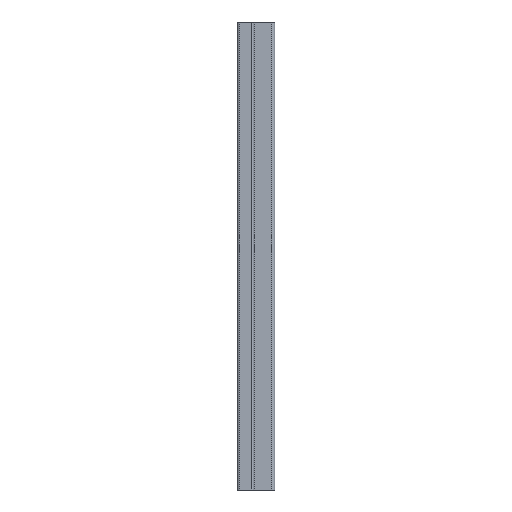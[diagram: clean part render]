
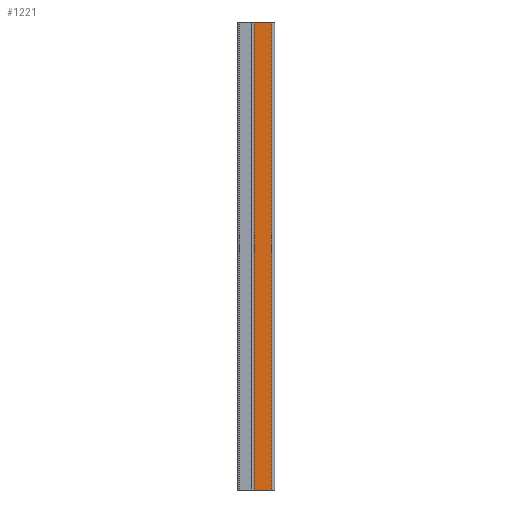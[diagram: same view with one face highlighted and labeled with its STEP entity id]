
A CAD part, left-side view. The second image highlights one B-rep face of the part: STEP entity #1221.
In plain terms, the highlighted planar face has unit normal (-1, 0, 0).
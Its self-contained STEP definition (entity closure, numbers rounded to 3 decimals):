
#14 = VERTEX_POINT ( 'NONE', #590 ) ;
#70 = LINE ( 'NONE', #155, #546 ) ;
#90 = ORIENTED_EDGE ( 'NONE', *, *, #225, .F. ) ;
#155 = CARTESIAN_POINT ( 'NONE',  ( -12.5, 27.5, 250. ) ) ;
#183 = EDGE_CURVE ( 'NONE', #191, #775, #265, .T. ) ;
#191 = VERTEX_POINT ( 'NONE', #1125 ) ;
#201 = EDGE_CURVE ( 'NONE', #14, #191, #351, .T. ) ;
#225 = EDGE_CURVE ( 'NONE', #866, #775, #70, .T. ) ;
#227 = AXIS2_PLACEMENT_3D ( 'NONE', #784, #1087, #1093 ) ;
#265 = LINE ( 'NONE', #754, #1207 ) ;
#270 = DIRECTION ( 'NONE',  ( 0., 0., 1. ) ) ;
#317 = PLANE ( 'NONE',  #227 ) ;
#351 = LINE ( 'NONE', #748, #381 ) ;
#372 = DIRECTION ( 'NONE',  ( 0., -1., 0. ) ) ;
#381 = VECTOR ( 'NONE', #838, 1000. ) ;
#536 = DIRECTION ( 'NONE',  ( 0., 0., 1. ) ) ;
#546 = VECTOR ( 'NONE', #372, 1000. ) ;
#590 = CARTESIAN_POINT ( 'NONE',  ( -12.5, 9.5, -250. ) ) ;
#626 = LINE ( 'NONE', #631, #654 ) ;
#631 = CARTESIAN_POINT ( 'NONE',  ( -12.5, 9.5, -252.668 ) ) ;
#654 = VECTOR ( 'NONE', #536, 1000. ) ;
#709 = FACE_OUTER_BOUND ( 'NONE', #1102, .T. ) ;
#748 = CARTESIAN_POINT ( 'NONE',  ( -12.5, 27.5, -250. ) ) ;
#754 = CARTESIAN_POINT ( 'NONE',  ( -12.5, -9.5, -250. ) ) ;
#775 = VERTEX_POINT ( 'NONE', #1097 ) ;
#784 = CARTESIAN_POINT ( 'NONE',  ( -12.5, 27.5, -250. ) ) ;
#838 = DIRECTION ( 'NONE',  ( 0., -1., 0. ) ) ;
#845 = EDGE_CURVE ( 'NONE', #14, #866, #626, .T. ) ;
#866 = VERTEX_POINT ( 'NONE', #1103 ) ;
#931 = ORIENTED_EDGE ( 'NONE', *, *, #845, .F. ) ;
#1004 = ORIENTED_EDGE ( 'NONE', *, *, #183, .T. ) ;
#1087 = DIRECTION ( 'NONE',  ( -1., 0., 0. ) ) ;
#1093 = DIRECTION ( 'NONE',  ( 0., -1., 0. ) ) ;
#1097 = CARTESIAN_POINT ( 'NONE',  ( -12.5, -9.5, 250. ) ) ;
#1102 = EDGE_LOOP ( 'NONE', ( #90, #931, #1166, #1004 ) ) ;
#1103 = CARTESIAN_POINT ( 'NONE',  ( -12.5, 9.5, 250. ) ) ;
#1125 = CARTESIAN_POINT ( 'NONE',  ( -12.5, -9.5, -250. ) ) ;
#1166 = ORIENTED_EDGE ( 'NONE', *, *, #201, .T. ) ;
#1207 = VECTOR ( 'NONE', #270, 1000. ) ;
#1221 = ADVANCED_FACE ( 'NONE', ( #709 ), #317, .T. ) ;
